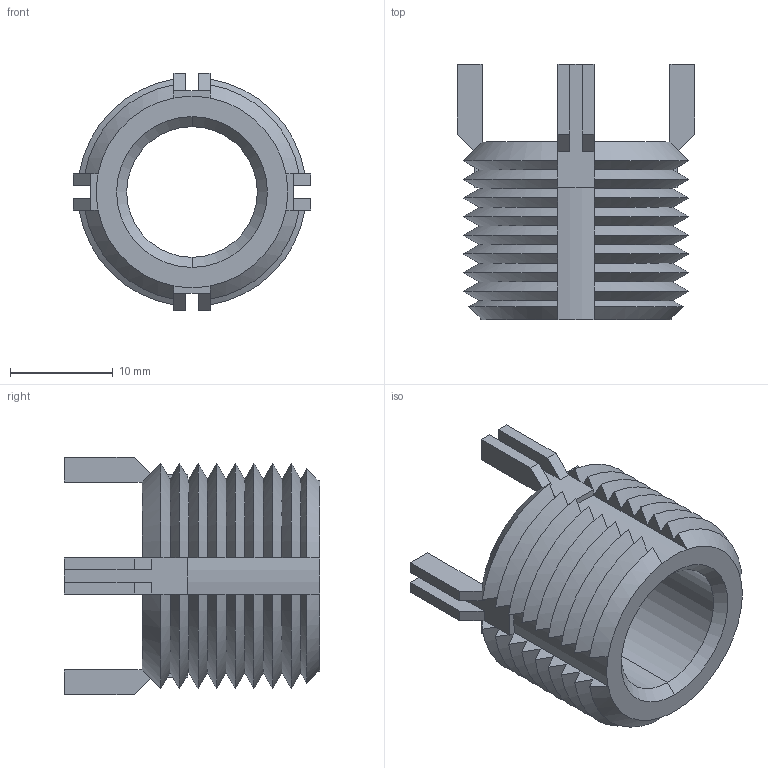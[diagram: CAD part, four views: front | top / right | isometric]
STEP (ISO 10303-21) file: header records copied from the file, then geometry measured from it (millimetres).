
FILE_DESCRIPTION (( 'STEP AP203' ), '1' );
FILE_NAME ('22024.W5380.step', '2020-01-04T21:57:43', ( '' ), ( '' ), 'SwSTEP 2.0', 'SolidWorks 2017', '' );
FILE_SCHEMA (( 'CONFIG_CONTROL_DESIGN' ));
Length unit declared in the file: millimetre
Products named in the file (1): 22024.W5380
Bounding box: 23.06 x 24.83 x 23.06 mm (x, y, z)
Volume: 3506.2 mm3; surface area: 3452.9 mm2
Topology: 1 solids, 1 shells, 172 faces, 450 edges, 280 vertices
Faces by surface type: plane 90, cone 76, cylinder 6
Entity records: 5475 total; most frequent: CARTESIAN_POINT 1479, ORIENTED_EDGE 900, DIRECTION 704, EDGE_CURVE 450, VERTEX_POINT 280, AXIS2_PLACEMENT_3D 265, B_SPLINE_CURVE_WITH_KNOTS 184, EDGE_LOOP 174
